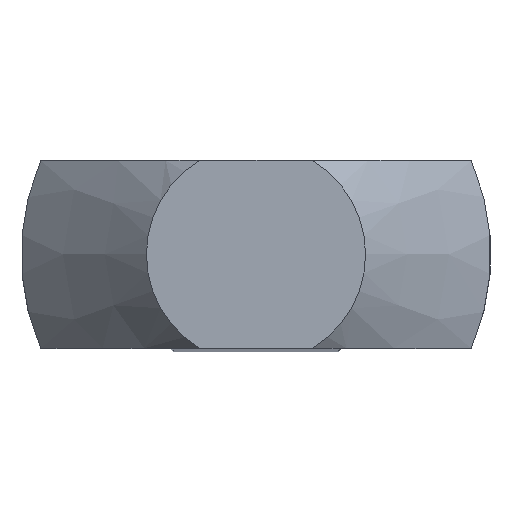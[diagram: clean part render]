
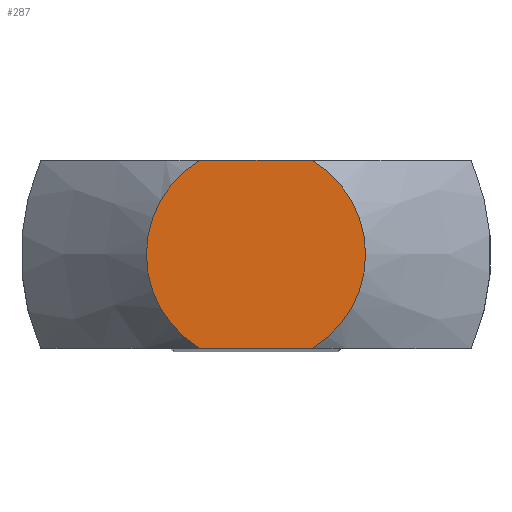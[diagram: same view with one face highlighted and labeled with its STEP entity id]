
A CAD part, top view. The second image highlights one B-rep face of the part: STEP entity #287.
In plain terms, the highlighted planar face has unit normal (0, 0, 1).
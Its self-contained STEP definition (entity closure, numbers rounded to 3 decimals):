
#24=LINE('',#452,#42);
#25=LINE('',#455,#43);
#42=VECTOR('',#360,10.);
#43=VECTOR('',#363,10.);
#60=PLANE('',#320);
#68=FACE_OUTER_BOUND('',#85,.T.);
#85=EDGE_LOOP('',(#202,#203,#204,#205));
#104=CIRCLE('',#318,3.5);
#106=CIRCLE('',#321,3.5);
#129=VERTEX_POINT('',#439);
#130=VERTEX_POINT('',#443);
#132=VERTEX_POINT('',#451);
#133=VERTEX_POINT('',#453);
#157=EDGE_CURVE('',#129,#130,#104,.T.);
#160=EDGE_CURVE('',#129,#132,#24,.T.);
#161=EDGE_CURVE('',#133,#132,#106,.T.);
#162=EDGE_CURVE('',#133,#130,#25,.T.);
#202=ORIENTED_EDGE('',*,*,#157,.F.);
#203=ORIENTED_EDGE('',*,*,#160,.T.);
#204=ORIENTED_EDGE('',*,*,#161,.F.);
#205=ORIENTED_EDGE('',*,*,#162,.T.);
#287=ADVANCED_FACE('',(#68),#60,.T.);
#318=AXIS2_PLACEMENT_3D('',#444,#354,#355);
#320=AXIS2_PLACEMENT_3D('',#450,#358,#359);
#321=AXIS2_PLACEMENT_3D('',#454,#361,#362);
#354=DIRECTION('center_axis',(0.,0.,-1.));
#355=DIRECTION('ref_axis',(1.,0.,0.));
#358=DIRECTION('center_axis',(0.,0.,1.));
#359=DIRECTION('ref_axis',(1.,0.,0.));
#360=DIRECTION('',(-1.,0.,0.));
#361=DIRECTION('center_axis',(0.,0.,-1.));
#362=DIRECTION('ref_axis',(-1.,0.,0.));
#363=DIRECTION('',(1.,0.,0.));
#439=CARTESIAN_POINT('',(1.803,3.,6.4));
#443=CARTESIAN_POINT('',(1.803,-3.,6.4));
#444=CARTESIAN_POINT('Origin',(0.,0.,
6.4));
#450=CARTESIAN_POINT('Origin',(0.,-3.75,6.4));
#451=CARTESIAN_POINT('',(-1.803,3.,6.4));
#452=CARTESIAN_POINT('',(6.874,3.,6.4));
#453=CARTESIAN_POINT('',(-1.803,-3.,6.4));
#454=CARTESIAN_POINT('Origin',(0.,0.,
6.4));
#455=CARTESIAN_POINT('',(6.874,-3.,6.4));
